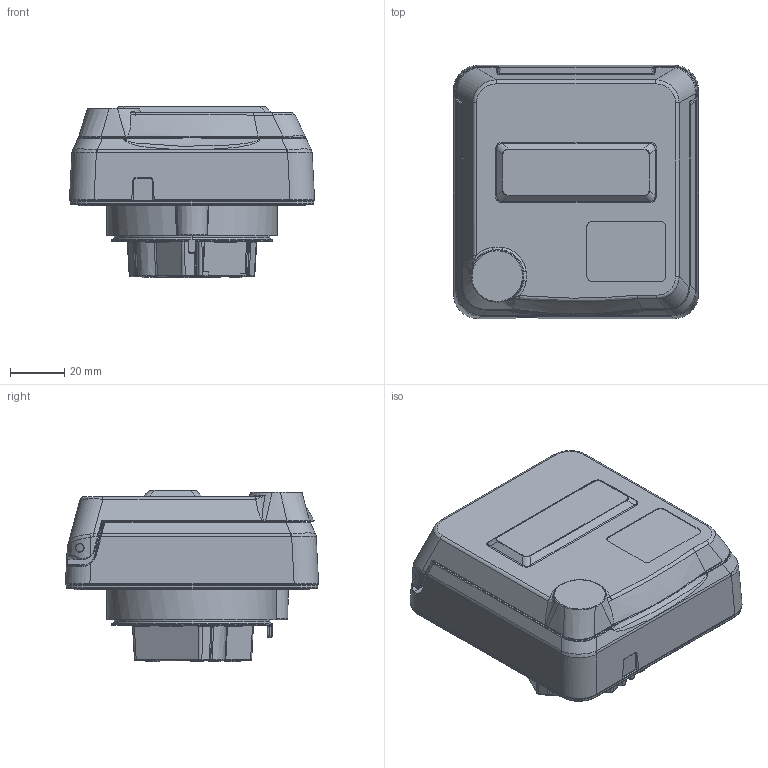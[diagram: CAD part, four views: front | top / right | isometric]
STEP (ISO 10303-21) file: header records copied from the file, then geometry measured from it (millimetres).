
FILE_DESCRIPTION((''),'2;1');
FILE_NAME('C00009068_SW0012','2026-04-01T11:12:41',('haas001'),('MENNEKES'),'CREO PARAMETRIC BY PTC INC, 2024153','CREO PARAMETRIC BY PTC INC, 2024153','');
FILE_SCHEMA(('AUTOMOTIVE_DESIGN { 1 0 10303 214 1 1 1 1 }'));
Products named in the file (1): C00009068_SW0012
Bounding box: 89.97 x 92.97 x 62.8 mm (x, y, z)
Volume: 315938.1 mm3; surface area: 36018 mm2
Topology: 1 solids, 1 shells, 963 faces, 2373 edges, 1444 vertices
Faces by surface type: cylinder 272, plane 269, bspline 192, extrusion 93, torus 88, cone 42, sphere 7
Entity records: 52994 total; most frequent: CARTESIAN_POINT 17463, ORIENTED_EDGE 4740, DIRECTION 3791, PRESENTATION_STYLE_ASSIGNMENT 3427, STYLED_ITEM 2464, CURVE_STYLE 2463, EDGE_CURVE 2370, VERTEX_POINT 1444
